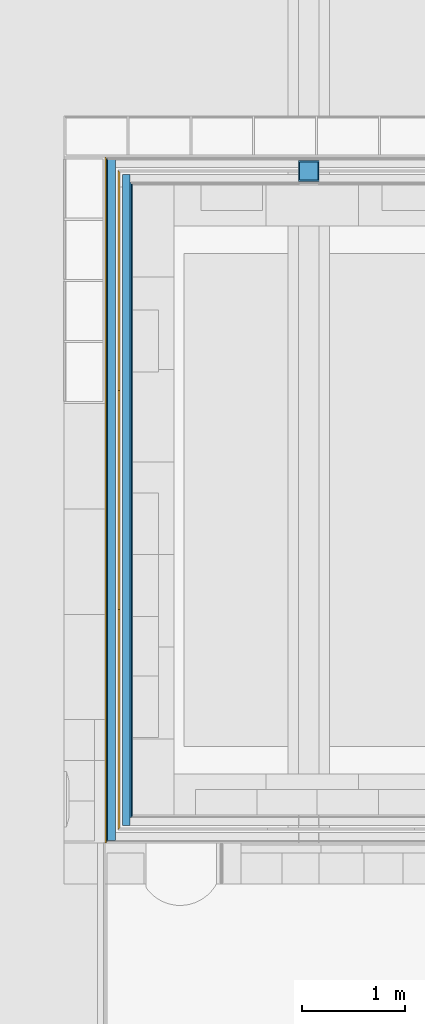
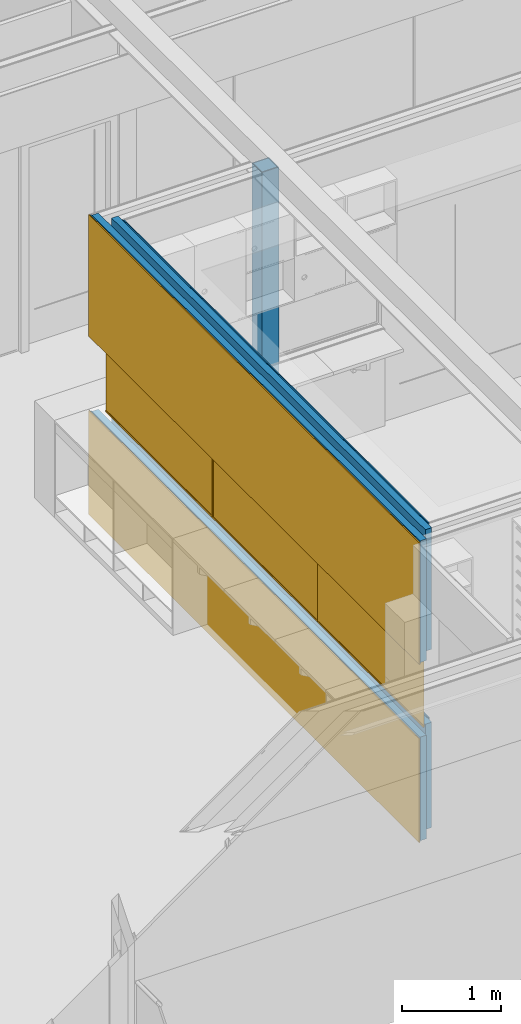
# One storey, part 84 of 137: 7 building element parts, 3 doors, 1 covering, 3 openings, 2 elements without a shape of their own.
"""IFC2X3 building model written with IfcOpenShell, lengths in millimetres."""

import ifcopenshell
import ifcopenshell.guid

model = None  # the IFC model being written
_history = None  # IfcOwnerHistory: only IFC2X3 demands one
_inside = {}  # id of a spatial element -> (the spatial element, [elements in it])
_under = {}  # id of a project, library or spatial element -> (it, [spatial elements below it])
_declared = {}  # id of a project -> (the project, [libraries it declares])
_typed = {}  # id of a type object -> (the type object, [elements of that type])
_made_of = {}  # id of a material, layer set ... -> (it, [elements and type objects made of it])


def new_model(schema):
    """Start an empty IFC model of exactly this schema.

    Asked for "IFC4X3", IfcOpenShell would pick the latest addendum, in which some entities
    have other attributes; the version numbers below select the first issue.
    IFC2X3 requires an IfcOwnerHistory on every rooted entity: one is made here for all.
    """
    global model, _history
    if schema == "IFC4X3":
        model = ifcopenshell.file(schema_version=(4, 3, 0, 0))
    else:
        model = ifcopenshell.file(schema=schema)
    _inside.clear()
    _under.clear()
    _declared.clear()
    _typed.clear()
    _made_of.clear()
    _history = None
    if model.schema == "IFC2X3":
        org = make("IfcOrganization", Name="unknown")
        user = make(
            "IfcPersonAndOrganization",
            ThePerson=make("IfcPerson", FamilyName="unknown"),
            TheOrganization=org,
        )
        app = make(
            "IfcApplication",
            ApplicationDeveloper=org,
            Version="unknown",
            ApplicationFullName="unknown",
            ApplicationIdentifier="unknown",
        )
        _history = make(
            "IfcOwnerHistory",
            OwningUser=user,
            OwningApplication=app,
            ChangeAction="ADDED",
            CreationDate=0,
        )
    return model


def make(cls, **values):
    """One entity of the class cls with the attributes given. An attribute that is None is left unset."""
    return model.create_entity(
        cls, **{name: value for name, value in values.items() if value is not None}
    )


def entity(cls, *values):
    """Any entity or typed value of the class cls, its attributes in the order of the schema. None: left unset."""
    e = model.create_entity(cls)
    for i, value in enumerate(values):
        if value is not None:
            e[i] = value
    return e


def rooted(cls, **values):
    """An entity with a GlobalId (a new one), such as an element, a storey or a relation."""
    return make(cls, GlobalId=ifcopenshell.guid.new(), OwnerHistory=_history, **values)


def si_unit(unit_type, name, prefix=None):
    """IfcSIUnit, for example si_unit("LENGTHUNIT", "METRE", prefix="MILLI")."""
    return make("IfcSIUnit", UnitType=unit_type, Prefix=prefix, Name=name)


def converted_unit(unit_type, name, factor, base, dimensions=None, offset=None):
    """IfcConversionBasedUnit, such as the inch: factor (a typed value) times the base unit."""
    return make(
        "IfcConversionBasedUnit"
        if offset is None
        else "IfcConversionBasedUnitWithOffset",
        ConversionOffset=offset,
        Dimensions=None
        if dimensions is None
        else entity("IfcDimensionalExponents", *dimensions),
        UnitType=unit_type,
        Name=name,
        ConversionFactor=make(
            "IfcMeasureWithUnit", ValueComponent=factor, UnitComponent=base
        ),
    )


def derived_unit(unit_type, elements):
    """IfcDerivedUnit: a product of units, each with its exponent."""
    return make(
        "IfcDerivedUnit",
        Elements=[
            make("IfcDerivedUnitElement", Unit=unit, Exponent=power)
            for unit, power in elements
        ],
        UnitType=unit_type,
    )


def money_unit(currency):
    """IfcMonetaryUnit."""
    return make("IfcMonetaryUnit", Currency=currency)


def assignment(units):
    """IfcUnitAssignment: the units of a project."""
    return None if units is None else make("IfcUnitAssignment", Units=units)


def point(xyz):
    """IfcCartesianPoint."""
    return None if xyz is None else make("IfcCartesianPoint", Coordinates=xyz)


def direction(xyz):
    """IfcDirection."""
    return None if xyz is None else make("IfcDirection", DirectionRatios=xyz)


def frame(location, z_axis=None, x_axis=None):
    """IfcAxis2Placement3D, a coordinate frame: its origin and axes. An axis left out is left unset."""
    return make(
        "IfcAxis2Placement3D",
        Location=point(location),
        Axis=direction(z_axis),
        RefDirection=direction(x_axis),
    )


def origin_with_axes():
    """The frame at (0, 0, 0) with the z axis (0, 0, 1) and the x axis (1, 0, 0) written out."""
    return frame((0.0, 0.0, 0.0), z_axis=(0.0, 0.0, 1.0), x_axis=(1.0, 0.0, 0.0))


def place(relative_to, where):
    """IfcLocalPlacement: puts the frame where relative to a parent placement (None: the world)."""
    return make(
        "IfcLocalPlacement", PlacementRelTo=relative_to, RelativePlacement=where
    )


def context(
    kind, dimensions, precision=None, world=None, true_north=None, identifier=None
):
    """IfcGeometricRepresentationContext, for example the 3D "Model" context."""
    return make(
        "IfcGeometricRepresentationContext",
        ContextIdentifier=identifier,
        ContextType=kind,
        CoordinateSpaceDimension=dimensions,
        Precision=precision,
        WorldCoordinateSystem=world,
        TrueNorth=true_north,
    )


def subcontext(parent, identifier, kind, view, scale=None):
    """IfcGeometricRepresentationSubContext, for example "Body" below "Model"."""
    return make(
        "IfcGeometricRepresentationSubContext",
        ContextIdentifier=identifier,
        ContextType=kind,
        ParentContext=parent,
        TargetScale=scale,
        TargetView=view,
    )


def project(units=None, contexts=None):
    """IfcProject with its units and contexts."""
    return rooted(
        "IfcProject",
        Name="project",
        RepresentationContexts=contexts,
        UnitsInContext=assignment(units),
    )


def spatial(cls, under=None, at=None, **own):
    """A site, building, storey or space (cls), placed at a placement, below another one or the project."""
    s = rooted(cls, ObjectPlacement=at, **own)
    if under is not None:
        _under.setdefault(under.id(), (under, []))[1].append(s)
    return s


def faces_of(points, faces, orient=None, outer=None):
    """IfcFace entities. A face is a list of loops; a loop is a list of indices into points, from 0.

    orient and outer hold one flag for each loop. By default every Orientation is true, the
    first loop of a face is its IfcFaceOuterBound and the others are IfcFaceBound.
    """
    made = []
    for i, loops in enumerate(faces):
        bounds = []
        for j, loop in enumerate(loops):
            is_outer = j == 0 if outer is None else outer[i][j]
            bounds.append(
                make(
                    "IfcFaceOuterBound" if is_outer else "IfcFaceBound",
                    Bound=make("IfcPolyLoop", Polygon=[points[k] for k in loop]),
                    Orientation=True if orient is None else orient[i][j],
                )
            )
        made.append(make("IfcFace", Bounds=bounds))
    return made


def open_shell(faces, orient=None, outer=None):
    """The faces of one IfcOpenShell. surface_model builds it on its shared points."""
    return ("IfcOpenShell", faces, orient, outer)


def faceted_brep(points, faces, orient=None, outer=None, voids=None):
    """IfcFacetedBrep: a solid bounded by flat faces; with voids (closed shells), ...WithVoids."""
    shared = [point(p) for p in points]
    hull = make("IfcClosedShell", CfsFaces=faces_of(shared, faces, orient, outer))
    if voids is None:
        return make("IfcFacetedBrep", Outer=hull)
    return make(
        "IfcFacetedBrepWithVoids",
        Outer=hull,
        Voids=[
            make(cls, CfsFaces=faces_of(shared, fs, o, b)) for cls, fs, o, b in voids
        ],
    )


def surface_model(cls, points, shells):
    """IfcFaceBasedSurfaceModel or IfcShellBasedSurfaceModel (cls): surfaces that need not close."""
    shared = [point(p) for p in points]
    made = [make(c, CfsFaces=faces_of(shared, fs, o, b)) for c, fs, o, b in shells]
    if cls == "IfcFaceBasedSurfaceModel":
        return make(cls, FbsmFaces=made)
    return make(cls, SbsmBoundary=made)


def shape(context_of_items, identifier, shape_type, items):
    """IfcShapeRepresentation: the items that make up one representation, for example the "Body"."""
    return make(
        "IfcShapeRepresentation",
        ContextOfItems=context_of_items,
        RepresentationIdentifier=identifier,
        RepresentationType=shape_type,
        Items=items,
    )


def material(Name=None, Category=None):
    """IfcMaterial."""
    return make("IfcMaterial", Name=Name, Category=Category)


def made_of(thing, what):
    """Note that an element or type object is made of a material, layer set ...; save() writes the relation."""
    if what is not None:
        _made_of.setdefault(what.id(), (what, []))[1].append(thing)
    return thing


def type_object(cls, material=None, **own):
    """A type object (cls), such as IfcWallType, which elements share."""
    return made_of(rooted(cls, **own), material)


def element(
    cls,
    number,
    at=None,
    inside=None,
    cuts=None,
    type_object=None,
    material=None,
    context=None,
    identifier="Body",
    shape_type=None,
    held_by="IfcProductDefinitionShape",
    body=None,
    shapes=None,
    **own,
):
    """One element of the class cls, such as IfcWall. Its Tag is "e" and its number.

    at: its placement. inside: the storey or other place that contains it. cuts: it is an
    opening in that element (IfcRelVoidsElement). A single representation is given by context,
    identifier, shape_type and body (its items); several are given by shapes. held_by: the class
    of the entity that holds the representations. save() writes the other relations.
    """
    e = rooted(cls, Tag="e%d" % number, ObjectPlacement=at, **own)
    if body is not None:
        shapes = [shape(context, identifier, shape_type, body)]
    if shapes is not None:
        e.Representation = make(held_by, Representations=shapes)
    if inside is not None:
        _inside.setdefault(inside.id(), (inside, []))[1].append(e)
    if cuts is not None:
        rooted(
            "IfcRelVoidsElement", RelatingBuildingElement=cuts, RelatedOpeningElement=e
        )
    if type_object is not None:
        _typed.setdefault(type_object.id(), (type_object, []))[1].append(e)
    return made_of(e, material)


def fill(opening, filler):
    """IfcRelFillsElement: the door or window that sits in an opening."""
    return rooted(
        "IfcRelFillsElement",
        RelatingOpeningElement=opening,
        RelatedBuildingElement=filler,
    )


def aggregate(whole, parts):
    """IfcRelAggregates: a whole, such as a stair, and the parts it consists of."""
    return rooted("IfcRelAggregates", RelatingObject=whole, RelatedObjects=parts)


def save(model, path):
    """Write the relations noted so far, then the file.

    IfcRelAggregates (storeys below a building ...), IfcRelContainedInSpatialStructure (elements
    in a storey), IfcRelDefinesByType, IfcRelAssociatesMaterial and IfcRelDeclares: one each for
    every whole, place, type object, material and project.
    """
    for whole, parts in _under.values():
        aggregate(whole, parts)
    for where, things in _inside.values():
        rooted(
            "IfcRelContainedInSpatialStructure",
            RelatedElements=things,
            RelatingStructure=where,
        )
    for kind, things in _typed.values():
        rooted("IfcRelDefinesByType", RelatedObjects=things, RelatingType=kind)
    for what, things in _made_of.values():
        rooted("IfcRelAssociatesMaterial", RelatedObjects=things, RelatingMaterial=what)
    for by, libraries in _declared.values():
        rooted("IfcRelDeclares", RelatingContext=by, RelatedDefinitions=libraries)
    model.write(path)


model = new_model("IFC2X3")

# Units and contexts
model_context = context("Model", 3, precision=0.01, world=origin_with_axes(), true_north=direction((0.0, 1.0)))
body_context = subcontext(model_context, "Body", "Model", "MODEL_VIEW")
ifc_project = project(units=[si_unit("LENGTHUNIT", "METRE", prefix="MILLI"), si_unit("AREAUNIT", "SQUARE_METRE"), si_unit("VOLUMEUNIT", "CUBIC_METRE"), converted_unit("PLANEANGLEUNIT", "DEGREE", entity("IfcPlaneAngleMeasure", 0.0174532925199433), si_unit("PLANEANGLEUNIT", "RADIAN"), dimensions=[0, 0, 0, 0, 0, 0, 0]), money_unit("EUR"), converted_unit("TIMEUNIT", "Year", entity("IfcTimeMeasure", 31556926.0), si_unit("TIMEUNIT", "SECOND"), dimensions=[0, 0, 1, 0, 0, 0, 0]), si_unit("MASSUNIT", "GRAM", prefix="KILO"), si_unit("THERMODYNAMICTEMPERATUREUNIT", "DEGREE_CELSIUS"), si_unit("LUMINOUSINTENSITYUNIT", "LUMEN"), si_unit("ENERGYUNIT", "JOULE", prefix="MEGA"), derived_unit("THERMALCONDUCTANCEUNIT", [(si_unit("POWERUNIT", "WATT"), 1), (si_unit("LENGTHUNIT", "METRE"), -1), (si_unit("THERMODYNAMICTEMPERATUREUNIT", "KELVIN"), -1)]), derived_unit("SPECIFICHEATCAPACITYUNIT", [(si_unit("ENERGYUNIT", "JOULE"), 1), (si_unit("MASSUNIT", "GRAM", prefix="KILO"), -1), (si_unit("THERMODYNAMICTEMPERATUREUNIT", "KELVIN"), -1)]), derived_unit("MASSDENSITYUNIT", [(si_unit("MASSUNIT", "GRAM", prefix="KILO"), 1), (si_unit("VOLUMEUNIT", "CUBIC_METRE"), -1)])], contexts=[model_context])

# Site, building, storey
site_placement = place(None, origin_with_axes())
site = spatial("IfcSite", under=ifc_project, at=site_placement, Name="Site", CompositionType="ELEMENT")
building_placement = place(site_placement, origin_with_axes())
building = spatial("IfcBuilding", under=site, at=building_placement, Name="Naam gebouw", CompositionType="ELEMENT")
storey_placement = place(building_placement, frame((0.0, 0.0, 3960.0), z_axis=(0.0, 0.0, 1.0), x_axis=(1.0, 0.0, 0.0)))
storey = spatial("IfcBuildingStorey", under=building, at=storey_placement, Name="1e verdieping", CompositionType="ELEMENT", Elevation=3960.0)

# Door
door_style = type_object("IfcDoorStyle", Name="R1 26", ConstructionType="NOTDEFINED", OperationType="SINGLE_SWING_RIGHT", ParameterTakesPrecedence=False, Sizeable=False)
proxy_placement = place(storey_placement, frame((15849.99944900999, 13039.99778166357, -100.0000000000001), z_axis=(0.0, 0.0, 1.0), x_axis=(-5.703895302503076e-08, 0.9999999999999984, 0.0)))
opening_1_placement = place(proxy_placement, frame((5335.002037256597, 0.0, 1300.0), z_axis=(0.0, 0.0, 1.0), x_axis=(1.0, 0.0, 0.0)))
door_1_placement = place(opening_1_placement, frame((-1065.000000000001, 0.0, 0.0), z_axis=(0.0, 0.0, 1.0), x_axis=(1.0, 0.0, 0.0)))
door_1 = element("IfcDoor", 1, at=door_1_placement, inside=storey, type_object=door_style, Name="_D.01", ObjectType="DOOR", OverallHeight=900.0, OverallWidth=2130.0, context=body_context, shape_type="SurfaceModel", body=[
    faceted_brep([(7.129859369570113e-06, -10.00024355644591, 19.99999999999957), (20.0000071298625, -10.00024469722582, 19.99999999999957), (20.00000827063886, 9.99975530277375, 19.99999999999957), (8.270635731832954e-06, 9.999756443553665, 19.99999999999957), (2130.000007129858, -10.00036504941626, 19.99999999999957), (7.129859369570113e-06, -10.00024355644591, 0.0), (2130.000007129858, -10.00036504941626, 0.0), (2150.000008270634, 9.999633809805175, 19.99999999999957), (2150.000008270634, 9.999633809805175, 0.0), (8.270635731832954e-06, 9.999756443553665, 0.0)], [[[0, 1, 2, 3]], [[4, 1, 0, 5, 6]], [[1, 4, 7, 2]], [[3, 2, 7, 8, 9]], [[5, 0, 3, 9]], [[6, 5, 9, 8]], [[4, 6, 8, 7]]]),
    faceted_brep([(20.0000071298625, -10.00024469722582, 879.9999999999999), (20.00000827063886, 9.99975530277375, 879.9999999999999), (8.270635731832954e-06, 9.999756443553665, 879.9999999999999), (7.129859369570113e-06, -10.00024355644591, 879.9999999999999), (20.0000071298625, -10.00024469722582, 19.99999999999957), (20.00000827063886, 9.99975530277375, 19.99999999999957), (8.270635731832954e-06, 9.999756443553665, 19.99999999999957), (7.129859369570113e-06, -10.00024355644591, 19.99999999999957)], [[[0, 1, 2, 3]], [[4, 5, 1, 0]], [[1, 5, 6, 2]], [[3, 2, 6, 7]], [[0, 3, 7, 4]], [[7, 6, 5, 4]]]),
    faceted_brep([(8.270635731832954e-06, 9.999756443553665, 900.0000000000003), (2150.000008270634, 9.999633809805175, 900.0000000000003), (2150.000008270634, 9.999633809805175, 879.9999999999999), (20.00000827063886, 9.99975530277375, 879.9999999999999), (8.270635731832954e-06, 9.999756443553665, 879.9999999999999), (7.129859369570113e-06, -10.00024355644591, 900.0000000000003), (2130.000007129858, -10.00036504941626, 900.0000000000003), (2130.000007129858, -10.00036504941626, 879.9999999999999), (20.0000071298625, -10.00024469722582, 879.9999999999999), (7.129859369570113e-06, -10.00024355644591, 879.9999999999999)], [[[0, 1, 2, 3, 4]], [[1, 0, 5, 6]], [[2, 1, 6, 7]], [[3, 2, 7, 8]], [[4, 3, 8, 9]], [[0, 4, 9, 5]], [[5, 9, 8, 7, 6]]]),
    surface_model("IfcShellBasedSurfaceModel", [(20.00000741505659, -5.000244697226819, 19.99999999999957), (2135.000007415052, -5.000365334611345, 19.99999999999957), (2135.000007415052, -5.000365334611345, 879.9999999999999), (20.00000741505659, -5.000244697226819, 879.9999999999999)], [open_shell([[[0, 1, 2, 3]]])]),
    surface_model("IfcShellBasedSurfaceModel", [(20.00000798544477, 4.999755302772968, 19.99999999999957), (20.00000798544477, 4.999755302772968, 879.9999999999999), (2145.000007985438, 4.999634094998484, 879.9999999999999), (2145.000007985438, 4.999634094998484, 19.99999999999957)], [open_shell([[[0, 1, 2, 3]]])]),
])

opening_2_placement = place(proxy_placement, frame((1075.002037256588, 0.0, 1300.0), z_axis=(0.0, 0.0, 1.0), x_axis=(1.0, 0.0, 0.0)))
door_2_placement = place(opening_2_placement, frame((-1065.0, 0.0, 0.0), z_axis=(0.0, 0.0, 1.0), x_axis=(1.0, 0.0, 0.0)))
door_2 = element("IfcDoor", 2, at=door_2_placement, inside=storey, type_object=door_style, Name="_D.01", ObjectType="DOOR", OverallHeight=900.0, OverallWidth=2130.0, context=body_context, shape_type="SurfaceModel", body=[
    faceted_brep([(2130.000007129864, -10.00012206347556, 0.0), (7.12986825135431e-06, -10.00000057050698, 0.0), (-19.99999172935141, 10.0000005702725, 0.0), (2130.000008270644, 9.999877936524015, 0.0), (2110.000007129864, -10.00012092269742, 19.99999999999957), (7.12986825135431e-06, -10.00000057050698, 19.99999999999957), (2130.000007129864, -10.00012206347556, 19.99999999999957), (-19.99999172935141, 10.0000005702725, 19.99999999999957), (2110.000008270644, 9.999879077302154, 19.99999999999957), (2130.000008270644, 9.999877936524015, 19.99999999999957)], [[[0, 1, 2, 3]], [[4, 5, 1, 0, 6]], [[2, 1, 5, 7]], [[2, 7, 8, 9, 3]], [[6, 0, 3, 9]], [[5, 4, 8, 7]], [[4, 6, 9, 8]]]),
    faceted_brep([(2110.000007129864, -10.00012092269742, 19.99999999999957), (2110.000008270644, 9.999879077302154, 19.99999999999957), (2130.000008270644, 9.999877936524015, 19.99999999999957), (2130.000007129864, -10.00012206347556, 19.99999999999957), (2110.000007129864, -10.00012092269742, 879.9999999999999), (2110.000008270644, 9.999879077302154, 879.9999999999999), (2130.000008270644, 9.999877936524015, 879.9999999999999), (2130.000007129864, -10.00012206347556, 879.9999999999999)], [[[0, 1, 2, 3]], [[4, 5, 1, 0]], [[1, 5, 6, 2]], [[3, 2, 6, 7]], [[0, 3, 7, 4]], [[7, 6, 5, 4]]]),
    faceted_brep([(-19.99999172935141, 10.0000005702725, 900.0000000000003), (2130.000008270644, 9.999877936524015, 900.0000000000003), (2130.000008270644, 9.999877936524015, 879.9999999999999), (2110.000008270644, 9.999879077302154, 879.9999999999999), (-19.99999172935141, 10.0000005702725, 879.9999999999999), (7.12986825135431e-06, -10.00000057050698, 900.0000000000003), (2130.000007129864, -10.00012206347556, 900.0000000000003), (2130.000007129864, -10.00012206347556, 879.9999999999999), (2110.000007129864, -10.00012092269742, 879.9999999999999), (7.12986825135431e-06, -10.00000057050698, 879.9999999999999)], [[[0, 1, 2, 3, 4]], [[1, 0, 5, 6]], [[2, 1, 6, 7]], [[3, 2, 7, 8]], [[4, 3, 8, 9]], [[0, 4, 9, 5]], [[9, 8, 7, 6, 5]]]),
    surface_model("IfcShellBasedSurfaceModel", [(-4.999992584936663, -5.000000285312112, 19.99999999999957), (2110.00000741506, -5.000120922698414, 19.99999999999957), (2110.00000741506, -5.000120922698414, 879.9999999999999), (-4.999992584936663, -5.000000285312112, 879.9999999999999)], [open_shell([[[0, 1, 2, 3]]])]),
    surface_model("IfcShellBasedSurfaceModel", [(-14.99999201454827, 5.000000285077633, 879.9999999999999), (2110.000007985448, 4.999879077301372, 879.9999999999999), (2110.000007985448, 4.999879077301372, 19.99999999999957), (-14.99999201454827, 5.000000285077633, 19.99999999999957)], [open_shell([[[0, 1, 2, 3]]])]),
])

opening_3_placement = place(proxy_placement, frame((3205.002037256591, 0.0, 1300.0), z_axis=(0.0, 0.0, 1.0), x_axis=(1.0, 0.0, 0.0)))
door_3_placement = place(opening_3_placement, frame((-1065.0, 0.0, 0.0), z_axis=(0.0, 0.0, 1.0), x_axis=(1.0, 0.0, 0.0)))
door_3 = element("IfcDoor", 3, at=door_3_placement, inside=storey, type_object=door_style, Name="_D.01", ObjectType="DOOR", OverallHeight=900.0, OverallWidth=2130.0, context=body_context, shape_type="SurfaceModel", body=[
    faceted_brep([(7.129862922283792e-06, -10.00012206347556, 19.99999999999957), (20.0000071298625, -10.00012320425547, 19.99999999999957), (20.00000827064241, 9.9998767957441, 19.99999999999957), (8.270642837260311e-06, 9.999877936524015, 19.99999999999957), (2110.00000712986, -10.00024241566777, 19.99999999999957), (7.129862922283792e-06, -10.00012206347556, 0.0), (2130.00000712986, -10.00024355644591, 0.0), (2130.00000712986, -10.00024355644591, 19.99999999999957), (2110.000008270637, 9.999757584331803, 19.99999999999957), (2130.000008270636, 9.999756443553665, 19.99999999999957), (2130.000008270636, 9.999756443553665, 0.0), (8.270642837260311e-06, 9.999877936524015, 0.0)], [[[0, 1, 2, 3]], [[4, 1, 0, 5, 6, 7]], [[1, 4, 8, 2]], [[3, 2, 8, 9, 10, 11]], [[5, 0, 3, 11]], [[6, 5, 11, 10]], [[7, 6, 10, 9]], [[4, 7, 9, 8]]]),
    faceted_brep([(20.0000071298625, -10.00012320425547, 879.9999999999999), (20.00000827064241, 9.9998767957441, 879.9999999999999), (8.270642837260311e-06, 9.999877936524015, 879.9999999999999), (7.129862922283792e-06, -10.00012206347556, 879.9999999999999), (20.0000071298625, -10.00012320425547, 19.99999999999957), (20.00000827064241, 9.9998767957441, 19.99999999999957), (8.270642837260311e-06, 9.999877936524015, 19.99999999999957), (7.129862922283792e-06, -10.00012206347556, 19.99999999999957)], [[[0, 1, 2, 3]], [[4, 5, 1, 0]], [[1, 5, 6, 2]], [[3, 2, 6, 7]], [[0, 3, 7, 4]], [[7, 6, 5, 4]]]),
    faceted_brep([(2110.00000712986, -10.00024241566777, 19.99999999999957), (2110.000008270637, 9.999757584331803, 19.99999999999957), (2130.000008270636, 9.999756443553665, 19.99999999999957), (2130.00000712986, -10.00024355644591, 19.99999999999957), (2110.00000712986, -10.00024241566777, 879.9999999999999), (2110.000008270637, 9.999757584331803, 879.9999999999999), (2130.000008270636, 9.999756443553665, 879.9999999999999), (2130.00000712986, -10.00024355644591, 879.9999999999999)], [[[0, 1, 2, 3]], [[4, 5, 1, 0]], [[1, 5, 6, 2]], [[3, 2, 6, 7]], [[0, 3, 7, 4]], [[7, 6, 5, 4]]]),
    faceted_brep([(2110.00000712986, -10.00024241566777, 879.9999999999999), (2110.000008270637, 9.999757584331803, 879.9999999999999), (2130.000008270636, 9.999756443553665, 879.9999999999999), (2130.00000712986, -10.00024355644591, 879.9999999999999), (20.0000071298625, -10.00012320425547, 879.9999999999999), (20.00000827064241, 9.9998767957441, 879.9999999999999), (8.270642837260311e-06, 9.999877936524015, 879.9999999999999), (8.270642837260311e-06, 9.999877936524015, 900.0000000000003), (2130.000008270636, 9.999756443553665, 900.0000000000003), (2130.00000712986, -10.00024355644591, 900.0000000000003), (7.129862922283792e-06, -10.00012206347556, 900.0000000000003), (7.129862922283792e-06, -10.00012206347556, 879.9999999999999)], [[[0, 1, 2, 3]], [[4, 5, 1, 0]], [[1, 5, 6, 7, 8, 2]], [[3, 2, 8, 9]], [[0, 3, 9, 10, 11, 4]], [[11, 6, 5, 4]], [[10, 7, 6, 11]], [[9, 8, 7, 10]]]),
    surface_model("IfcShellBasedSurfaceModel", [(20.00000741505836, -5.000123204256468, 19.99999999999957), (2110.000007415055, -5.000242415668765, 19.99999999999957), (2110.000007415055, -5.000242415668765, 879.9999999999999), (20.00000741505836, -5.000123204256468, 879.9999999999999)], [open_shell([[[0, 1, 2, 3]]])]),
    surface_model("IfcShellBasedSurfaceModel", [(20.00000798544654, 4.999876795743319, 19.99999999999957), (20.00000798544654, 4.999876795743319, 879.9999999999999), (2110.000007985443, 4.999757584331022, 879.9999999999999), (2110.000007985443, 4.999757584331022, 19.99999999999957)], [open_shell([[[0, 1, 2, 3]]])]),
])

# Proxy, opening
building_element_proxy_type = type_object("IfcBuildingElementProxyType", Name="22 Metal stud 270 oregon pine 270", PredefinedType="NOTDEFINED")
proxy = element("IfcBuildingElementProxy", 4, at=proxy_placement, inside=storey, type_object=building_element_proxy_type, Name="_Wand-x")
opening_1 = element("IfcOpeningElement", 5, at=opening_1_placement, cuts=proxy, Name="_D.01", context=body_context, shape_type="Brep", body=[
    faceted_brep([(-1064.999991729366, 9.999756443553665, 0.0), (-1064.999991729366, 9.999756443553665, 900.0000000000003), (-1064.999984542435, 136.0001220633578, 900.0000000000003), (-1064.999984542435, 136.0001220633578, 0.0), (-1065.000000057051, -136.0002435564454, 0.0), (-1065.000000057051, -136.0002435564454, 900.0000000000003), (1210.000015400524, 135.000015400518, 900.0000000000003), (1210.000015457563, 135.9999922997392, 900.0000000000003), (938.9996266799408, -136.0003578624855, 900.0000000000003), (1210.000015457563, 135.9999922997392, 0.0), (1210.000015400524, 135.000015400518, 0.0), (938.9996266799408, -136.0003578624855, 0.0)], [[[0, 1, 2, 3]], [[1, 0, 4, 5]], [[6, 7, 2, 1, 5, 8]], [[7, 9, 3, 2]], [[0, 3, 9, 10, 11, 4]], [[5, 4, 11, 8]], [[10, 9, 7, 6]], [[8, 11, 10, 6]]]),
])

fill(opening_1, door_1)

# Opening
opening_2 = element("IfcOpeningElement", 6, at=opening_2_placement, cuts=proxy, Name="_D.01", context=body_context, shape_type="Brep", body=[
    faceted_brep([(-1209.9999845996, 134.9979550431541, 900.0000000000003), (-1209.999984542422, 136.0003733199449, 900.0000000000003), (-1209.999984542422, 136.0003733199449, 0.0), (-1209.9999845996, 134.9979550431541, 0.0), (1065.000008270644, 9.999877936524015, 900.0000000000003), (1065.000015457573, 136.0002435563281, 900.0000000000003), (-939.0020372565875, -136.000007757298, 900.0000000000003), (1064.999999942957, -136.000122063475, 900.0000000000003), (1065.000015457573, 136.0002435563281, 0.0), (1065.000008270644, 9.999877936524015, 0.0), (1064.999999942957, -136.000122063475, 0.0), (-939.0020372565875, -136.000007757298, 0.0)], [[[0, 1, 2, 3]], [[4, 5, 1, 0, 6, 7]], [[5, 8, 2, 1]], [[3, 2, 8, 9, 10, 11]], [[0, 3, 11, 6]], [[4, 9, 8, 5]], [[11, 10, 7, 6]], [[9, 4, 7, 10]]]),
])

fill(opening_2, door_2)

opening_3 = element("IfcOpeningElement", 7, at=opening_3_placement, cuts=proxy, Name="_D.01", context=body_context, shape_type="Brep", body=[
    faceted_brep([(-1064.999991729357, 9.999877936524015, 0.0), (-1064.999991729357, 9.999877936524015, 900.0000000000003), (-1064.999984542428, 136.0002435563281, 900.0000000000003), (-1064.999984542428, 136.0002435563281, 0.0), (-1065.000000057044, -136.000122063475, 0.0), (-1065.000000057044, -136.000122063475, 900.0000000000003), (1065.000008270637, 9.999756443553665, 900.0000000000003), (1065.000015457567, 136.0001220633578, 900.0000000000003), (1064.999999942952, -136.0002435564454, 900.0000000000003), (1065.000015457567, 136.0001220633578, 0.0), (1065.000008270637, 9.999756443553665, 0.0), (1064.999999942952, -136.0002435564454, 0.0)], [[[0, 1, 2, 3]], [[1, 0, 4, 5]], [[6, 7, 2, 1, 5, 8]], [[7, 9, 3, 2]], [[0, 3, 9, 10, 11, 4]], [[5, 4, 11, 8]], [[6, 10, 9, 7]], [[10, 6, 8, 11]]]),
])

fill(opening_3, door_3)

# Covering
ifc_material_1 = material(Name="Hout - Multiplex Oregon Pine")
covering_placement = place(proxy_placement, origin_with_axes())
covering = element("IfcCovering", 8, at=covering_placement, material=ifc_material_1, Name="Hout - Multiplex Oregon Pine", PredefinedType="NOTDEFINED", context=body_context, shape_type="Brep", body=[
    faceted_brep([(-134.9979634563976, 122.5000077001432, 1280.000000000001), (-134.9999930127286, 122.5000077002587, 0.0), (6545.002036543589, 122.4996266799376, 0.0), (6545.002036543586, 122.4996266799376, 1280.000000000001), (-134.9979627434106, 134.9999999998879, 1280.000000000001), (-134.9999922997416, 135.000007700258, 0.0), (6545.002037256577, 134.9996266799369, 0.0), (6545.002037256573, 134.9996189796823, 1280.000000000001)], [[[0, 1, 2, 3]], [[4, 5, 1, 0]], [[5, 6, 2, 1]], [[6, 7, 3, 2]], [[7, 4, 0, 3]], [[5, 4, 7, 6]]]),
    faceted_brep([(2140.002051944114, 122.4998779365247, 2200.0), (4270.002051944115, 122.4997564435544, 2200.0), (6545.002055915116, 122.4996266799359, 2200.0), (6545.002036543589, 122.4996266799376, 3700.0), (-134.9999930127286, 122.5000077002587, 3700.0), (-135.000012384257, 122.5000077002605, 2200.0), (-134.9979473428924, 135.0000270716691, 2200.0), (6545.001683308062, 134.9996460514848, 2200.0), (6545.002037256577, 134.9996266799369, 3700.0), (-134.9999922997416, 135.000007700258, 3700.0)], [[[0, 1, 2, 3, 4, 5]], [[6, 7, 2, 1, 0, 5]], [[2, 7, 8, 3]], [[8, 9, 4, 3]], [[6, 5, 4, 9]], [[6, 9, 8, 7]]]),
])

# Building element part
ifc_material_2 = material(Name="Gipsplaat")
building_element_part_1_placement = place(proxy_placement, origin_with_axes())
building_element_part_1 = element("IfcBuildingElementPart", 9, at=building_element_part_1_placement, material=ifc_material_2, Name="Gipsplaat", context=body_context, shape_type="Brep", body=[
    faceted_brep([(6532.501853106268, 122.4998108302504, 1280.000000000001), (6532.5020358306, 109.9996273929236, 1280.000000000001), (6532.5020358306, 109.9996273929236, 0.0), (6532.502036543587, 122.4996273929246, 0.0), (-122.4999937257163, 110.0000069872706, 1280.000000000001), (-122.4990235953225, 122.5009763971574, 1280.000000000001), (-122.4999937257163, 110.0000069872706, 0.0), (-122.4999930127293, 122.5000069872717, 0.0)], [[[0, 1, 2, 3]], [[4, 1, 0, 5]], [[1, 4, 6, 2]], [[3, 2, 6, 7]], [[5, 0, 3, 7]], [[4, 5, 7, 6]]]),
    faceted_brep([(2140.002051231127, 109.9998779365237, 2200.0), (4270.002051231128, 109.9997564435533, 2200.0), (6532.5020358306, 109.9996273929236, 2200.0), (6532.5020358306, 109.9996273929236, 3700.0), (-122.4999937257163, 110.0000069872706, 3700.0), (-122.4999937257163, 110.0000069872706, 2200.0), (-122.499008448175, 122.5009915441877, 2200.0), (2140.002051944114, 122.4998779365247, 2200.0), (4270.002051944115, 122.4997564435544, 2200.0), (6532.50185024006, 122.4998136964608, 2200.0), (6532.502036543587, 122.4996273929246, 3700.0), (-122.4999930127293, 122.5000069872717, 3700.0)], [[[0, 1, 2, 3, 4, 5]], [[6, 7, 8, 9, 2, 1, 0, 5]], [[2, 9, 10, 3]], [[10, 11, 4, 3]], [[6, 5, 4, 11]], [[7, 6, 11, 10, 9, 8]]]),
])

ifc_material_3 = material(Name="ALG - LICHTE SCHEIDINGSWAND")
building_element_part_2_placement = place(proxy_placement, origin_with_axes())
building_element_part_2 = element("IfcBuildingElementPart", 10, at=building_element_part_2_placement, material=ifc_material_3, Name="ALG - LICHTE SCHEIDINGSWAND", context=body_context, shape_type="Brep", body=[
    faceted_brep([(35.00038271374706, -34.99961728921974, 1300.0), (34.99999372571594, -110.0000019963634, 1300.0), (6375.002023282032, -110.0003636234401, 1300.0), (6375.001845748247, -35.00018181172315, 1300.0), (34.99999372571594, -110.0000019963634, 0.0), (34.99999800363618, -35.00000199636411, 0.0), (6375.002023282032, -110.0003636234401, 0.0), (6375.002027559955, -35.00036362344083, 0.0)], [[[0, 1, 2, 3]], [[4, 1, 0, 5]], [[2, 1, 4, 6]], [[7, 3, 2, 6]], [[5, 0, 3, 7]], [[7, 6, 4, 5]]]),
    faceted_brep([(2140.002038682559, -110.0001220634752, 2200.0), (4270.002038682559, -110.0002435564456, 2200.0), (6375.002023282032, -110.0003636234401, 2200.0), (6375.002023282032, -110.0003636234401, 3700.0), (34.99999372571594, -110.0000019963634, 3700.0), (34.99999372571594, -110.0000019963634, 2200.0), (35.00038271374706, -34.99961728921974, 2200.0), (2140.002042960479, -35.00012206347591, 2200.0), (4270.002042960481, -35.00024355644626, 2200.0), (6375.001845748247, -35.00018181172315, 2200.0), (6375.002027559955, -35.00036362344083, 3700.0), (34.99999800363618, -35.00000199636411, 3700.0)], [[[0, 1, 2, 3, 4, 5]], [[6, 7, 8, 9, 2, 1, 0, 5]], [[2, 9, 10, 3]], [[10, 11, 4, 3]], [[6, 5, 4, 11]], [[7, 6, 11, 10, 9, 8]]]),
])

building_element_part_3_placement = place(proxy_placement, origin_with_axes())
building_element_part_3 = element("IfcBuildingElementPart", 11, at=building_element_part_3_placement, material=ifc_material_3, Name="ALG - LICHTE SCHEIDINGSWAND", context=body_context, shape_type="Brep", body=[
    faceted_brep([(6520.00185274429, 109.99981119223, 1280.000000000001), (6520.002031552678, 34.99962810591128, 1280.000000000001), (6520.002031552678, 34.99962810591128, 0.0), (6520.002035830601, 109.9996281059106, 0.0), (-109.9999980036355, 35.00000627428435, 1280.000000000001), (-109.9990711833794, 110.0009288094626, 1280.000000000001), (-109.9999980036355, 35.00000627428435, 0.0), (-109.9999937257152, 110.0000062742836, 0.0)], [[[0, 1, 2, 3]], [[4, 1, 0, 5]], [[1, 4, 6, 2]], [[3, 2, 6, 7]], [[5, 0, 3, 7]], [[4, 5, 7, 6]]]),
    faceted_brep([(2140.002046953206, 34.99987793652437, 2200.0), (4270.002046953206, 34.99975644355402, 2200.0), (6520.002031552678, 34.99962810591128, 2200.0), (6520.002031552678, 34.99962810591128, 3700.0), (-109.9999980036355, 35.00000627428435, 3700.0), (-109.9999980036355, 35.00000627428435, 2200.0), (-109.9990567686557, 110.0009432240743, 2200.0), (2140.002051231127, 109.9998779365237, 2200.0), (4270.002051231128, 109.9997564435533, 2200.0), (6520.001849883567, 109.9998140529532, 2200.0), (6520.002035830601, 109.9996281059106, 3700.0), (-109.9999937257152, 110.0000062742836, 3700.0)], [[[0, 1, 2, 3, 4, 5]], [[6, 7, 8, 9, 2, 1, 0, 5]], [[2, 9, 10, 3]], [[10, 11, 4, 3]], [[6, 5, 4, 11]], [[7, 6, 11, 10, 9, 8]]]),
])

building_element_part_4_placement = place(proxy_placement, origin_with_axes())
building_element_part_4 = element("IfcBuildingElementPart", 12, at=building_element_part_4_placement, material=ifc_material_2, Name="Gipsplaat", context=body_context, shape_type="Brep", body=[
    faceted_brep([(110.0000927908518, -109.9999072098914, 1300.0), (109.9999930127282, -122.5000062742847, 1300.0), (6300.002022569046, -122.5003593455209, 1300.0), (6300.001843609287, -110.0001796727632, 1300.0), (109.9999930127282, -122.5000062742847, 0.0), (109.9999937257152, -110.0000062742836, 0.0), (6300.002022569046, -122.5003593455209, 0.0), (6300.002023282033, -110.0003593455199, 0.0)], [[[0, 1, 2, 3]], [[4, 1, 0, 5]], [[2, 1, 4, 6]], [[7, 3, 2, 6]], [[5, 0, 3, 7]], [[7, 6, 4, 5]]]),
    faceted_brep([(2140.002037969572, -122.5001220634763, 2200.0), (4270.002037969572, -122.5002435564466, 2200.0), (6300.002022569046, -122.5003593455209, 2200.0), (6300.002022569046, -122.5003593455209, 3700.0), (109.9999930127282, -122.5000062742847, 3700.0), (109.9999930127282, -122.5000062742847, 2200.0), (110.0000927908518, -109.9999072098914, 2200.0), (2140.002038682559, -110.0001220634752, 2200.0), (4270.002038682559, -110.0002435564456, 2200.0), (6300.001843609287, -110.0001796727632, 2200.0), (6300.002023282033, -110.0003593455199, 3700.0), (109.9999937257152, -110.0000062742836, 3700.0)], [[[0, 1, 2, 3, 4, 5]], [[6, 7, 8, 9, 2, 1, 0, 5]], [[2, 9, 10, 3]], [[10, 11, 4, 3]], [[6, 5, 4, 11]], [[7, 6, 11, 10, 9, 8]]]),
])

building_element_part_5_placement = place(proxy_placement, origin_with_axes())
building_element_part_5 = element("IfcBuildingElementPart", 13, at=building_element_part_5_placement, material=ifc_material_2, Name="Gipsplaat", context=body_context, shape_type="Brep", body=[
    faceted_brep([(122.5000444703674, -122.499955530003, 1300.0), (122.4999922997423, -135.000006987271, 1300.0), (6287.50202185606, -135.0003586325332, 1300.0), (6287.501843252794, -122.500179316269, 1300.0), (122.4999922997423, -135.000006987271, 0.0), (122.4999930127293, -122.5000069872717, 0.0), (6287.50202185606, -135.0003586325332, 0.0), (6287.502022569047, -122.5003586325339, 0.0)], [[[0, 1, 2, 3]], [[4, 1, 0, 5]], [[2, 1, 4, 6]], [[7, 3, 2, 6]], [[5, 0, 3, 7]], [[7, 6, 4, 5]]]),
    faceted_brep([(135.0000000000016, -135.0000077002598, 2200.0), (6275.001663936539, -135.0003579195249, 2200.0), (6287.50202185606, -135.0003586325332, 2200.0), (6287.50202185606, -135.0003586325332, 3700.0), (122.4999922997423, -135.000006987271, 3700.0), (122.4999922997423, -135.000006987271, 2200.0), (122.5000444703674, -122.499955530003, 2200.0), (2140.002037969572, -122.5001220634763, 2200.0), (4270.002037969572, -122.5002435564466, 2200.0), (6287.501843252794, -122.500179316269, 2200.0), (6287.502022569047, -122.5003586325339, 3700.0), (122.4999930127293, -122.5000069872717, 3700.0)], [[[0, 1, 2, 3, 4, 5]], [[6, 7, 8, 9, 2, 1, 0, 5]], [[2, 9, 10, 3]], [[10, 11, 4, 3]], [[6, 5, 4, 11]], [[7, 6, 11, 10, 9, 8]]]),
])

aggregate(proxy, [building_element_part_1, building_element_part_2, building_element_part_3, building_element_part_4, building_element_part_5, covering])

# Column, building element parts
column_type = type_object("IfcColumnType", Name="200X200X10 200 x 200", PredefinedType="COLUMN")
column_placement = place(storey_placement, frame((17699.99942456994, 19449.9998112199, -100.0000000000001), z_axis=(0.0, 0.0, 1.0), x_axis=(1.0, 0.0, 0.0)))
column = element("IfcColumn", 14, at=column_placement, inside=storey, type_object=column_type, Name="28_Kolom-x", ObjectType="COLUMN")
ifc_material_4 = material(Name="Beton gewapend C")
building_element_part_6_placement = place(column_placement, origin_with_axes())
building_element_part_6 = element("IfcBuildingElementPart", 15, at=building_element_part_6_placement, material=ifc_material_4, Name="Beton gewapend C", context=body_context, shape_type="Brep", body=[
    faceted_brep([(-89.99999999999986, 89.99999999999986, 3675.000029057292), (89.99999999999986, 89.99999999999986, 3675.000029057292), (89.99999999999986, 89.99999999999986, 0.0), (-89.99999999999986, 89.99999999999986, 0.0), (89.99999999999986, -89.99999999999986, 3675.000029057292), (-89.99999999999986, -89.99999999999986, 3675.000029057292), (89.99999999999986, -89.99999999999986, 0.0), (-89.99999999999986, -89.99999999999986, 0.0)], [[[0, 1, 2, 3]], [[4, 1, 0, 5]], [[1, 4, 6, 2]], [[2, 6, 7, 3]], [[5, 0, 3, 7]], [[4, 5, 7, 6]]]),
    faceted_brep([(89.99999999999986, -89.99999999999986, 3695.000029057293), (89.99999999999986, 89.99999999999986, 3695.000029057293), (89.99999999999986, 89.99999999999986, 3699.999999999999), (89.99999999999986, -89.99999999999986, 3699.999999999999), (-89.99999999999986, 89.99999999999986, 3695.000029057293), (-89.99999999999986, -89.99999999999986, 3695.000029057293), (-89.99999999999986, 89.99999999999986, 3699.999999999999), (-89.99999999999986, -89.99999999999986, 3699.999999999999)], [[[0, 1, 2, 3]], [[4, 1, 0, 5]], [[1, 4, 6, 2]], [[2, 6, 7, 3]], [[5, 0, 3, 7]], [[4, 5, 7, 6]]]),
])
ifc_material_5 = material(Name="Metaal - Staal C")
building_element_part_7_placement = place(column_placement, origin_with_axes())
building_element_part_7 = element("IfcBuildingElementPart", 16, at=building_element_part_7_placement, material=ifc_material_5, Name="Metaal - Staal C", context=body_context, shape_type="Brep", body=[
    faceted_brep([(-100.0000000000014, -100.0000000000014, 0.0), (100.0000000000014, -100.0000000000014, 0.0), (100.0000000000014, -100.0000000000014, 3699.999999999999), (-100.0000000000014, -100.0000000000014, 3699.999999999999), (-100.0000000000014, 100.0000000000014, 0.0), (100.0000000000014, 100.0000000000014, 0.0), (-89.99999999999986, -89.99999999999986, 0.0), (89.99999999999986, -89.99999999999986, 0.0), (89.99999999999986, 89.99999999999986, 0.0), (-89.99999999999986, 89.99999999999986, 0.0), (100.0000000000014, 100.0000000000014, 3699.999999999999), (-100.0000000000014, 100.0000000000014, 3699.999999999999), (-89.99999999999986, -89.99999999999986, 3699.999999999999), (-89.99999999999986, 89.99999999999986, 3699.999999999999), (89.99999999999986, 89.99999999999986, 3699.999999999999), (89.99999999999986, -89.99999999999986, 3699.999999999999)], [[[0, 1, 2, 3]], [[0, 4, 5, 1], [6, 7, 8, 9]], [[1, 5, 10, 2]], [[3, 2, 10, 11], [12, 13, 14, 15]], [[4, 0, 3, 11]], [[5, 4, 11, 10]], [[7, 6, 12, 15]], [[8, 7, 15, 14]], [[9, 8, 14, 13]], [[6, 9, 13, 12]]]),
])
aggregate(column, [building_element_part_6, building_element_part_7])

save(model, "model.ifc")
